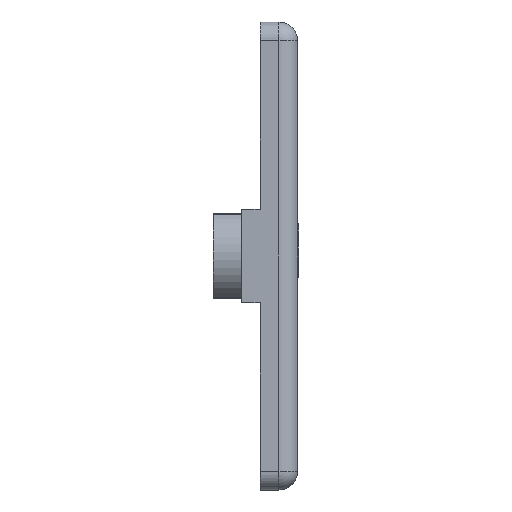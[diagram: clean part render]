
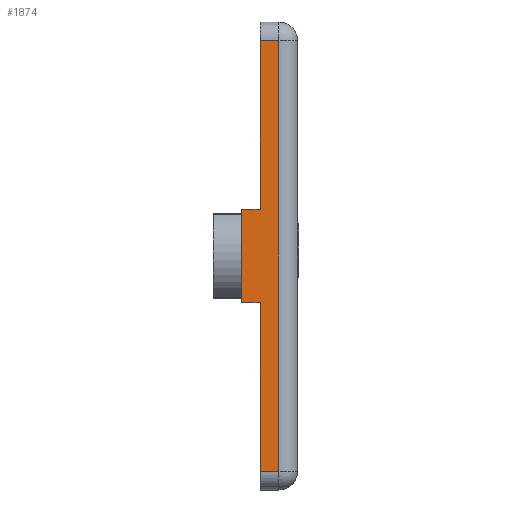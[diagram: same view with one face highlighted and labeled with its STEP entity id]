
A CAD part, left-side view. The second image highlights one B-rep face of the part: STEP entity #1874.
In plain terms, the highlighted planar face has unit normal (-1, 0, 0).
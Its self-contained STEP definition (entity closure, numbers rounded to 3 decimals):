
#263 = EDGE_CURVE ( 'NONE', #3772, #6818, #517, .T. ) ;
#286 = CARTESIAN_POINT ( 'NONE',  ( -50., 6., -5. ) ) ;
#391 = EDGE_CURVE ( 'NONE', #6206, #7126, #5314, .T. ) ;
#461 = EDGE_CURVE ( 'NONE', #3600, #4583, #7524, .T. ) ;
#496 = LINE ( 'NONE', #3031, #7209 ) ;
#517 = LINE ( 'NONE', #1816, #3979 ) ;
#574 = CARTESIAN_POINT ( 'NONE',  ( -50., 4., -23. ) ) ;
#644 = DIRECTION ( 'NONE',  ( 0., 0., 1. ) ) ;
#651 = EDGE_CURVE ( 'NONE', #3600, #3772, #2903, .T. ) ;
#682 = LINE ( 'NONE', #574, #3939 ) ;
#812 = ORIENTED_EDGE ( 'NONE', *, *, #4389, .T. ) ;
#814 = VECTOR ( 'NONE', #3661, 1000. ) ;
#822 = CARTESIAN_POINT ( 'NONE',  ( -50., 4., 5. ) ) ;
#849 = PLANE ( 'NONE',  #4852 ) ;
#1229 = ORIENTED_EDGE ( 'NONE', *, *, #391, .T. ) ;
#1240 = DIRECTION ( 'NONE',  ( 0., 0., 1. ) ) ;
#1378 = FACE_OUTER_BOUND ( 'NONE', #3823, .T. ) ;
#1514 = VECTOR ( 'NONE', #6084, 1000. ) ;
#1603 = EDGE_CURVE ( 'NONE', #3436, #4583, #4949, .T. ) ;
#1786 = DIRECTION ( 'NONE',  ( 0., -1., 0. ) ) ;
#1816 = CARTESIAN_POINT ( 'NONE',  ( -50., 6., 5. ) ) ;
#1874 = ADVANCED_FACE ( 'NONE', ( #1378 ), #849, .F. ) ;
#2161 = DIRECTION ( 'NONE',  ( 0., 0., -1. ) ) ;
#2186 = CARTESIAN_POINT ( 'NONE',  ( -50., 2., -23. ) ) ;
#2301 = ORIENTED_EDGE ( 'NONE', *, *, #651, .F. ) ;
#2403 = ORIENTED_EDGE ( 'NONE', *, *, #4296, .F. ) ;
#2715 = CARTESIAN_POINT ( 'NONE',  ( -50., 4., -23. ) ) ;
#2903 = LINE ( 'NONE', #4482, #4440 ) ;
#3031 = CARTESIAN_POINT ( 'NONE',  ( -50., 4., -23. ) ) ;
#3436 = VERTEX_POINT ( 'NONE', #2715 ) ;
#3600 = VERTEX_POINT ( 'NONE', #6264 ) ;
#3661 = DIRECTION ( 'NONE',  ( 0., -1., 0. ) ) ;
#3730 = CARTESIAN_POINT ( 'NONE',  ( -50., 4., -23. ) ) ;
#3772 = VERTEX_POINT ( 'NONE', #6213 ) ;
#3784 = CARTESIAN_POINT ( 'NONE',  ( -50., 2., 23. ) ) ;
#3823 = EDGE_LOOP ( 'NONE', ( #812, #1229, #2403, #4102, #5492, #2301, #6024, #8290 ) ) ;
#3939 = VECTOR ( 'NONE', #1240, 1000. ) ;
#3979 = VECTOR ( 'NONE', #1786, 1000. ) ;
#4102 = ORIENTED_EDGE ( 'NONE', *, *, #5887, .F. ) ;
#4296 = EDGE_CURVE ( 'NONE', #4375, #7126, #4986, .T. ) ;
#4375 = VERTEX_POINT ( 'NONE', #8100 ) ;
#4389 = EDGE_CURVE ( 'NONE', #3436, #6206, #496, .T. ) ;
#4440 = VECTOR ( 'NONE', #644, 1000. ) ;
#4482 = CARTESIAN_POINT ( 'NONE',  ( -50., 6., -5. ) ) ;
#4583 = VERTEX_POINT ( 'NONE', #5841 ) ;
#4736 = VECTOR ( 'NONE', #6939, 1000. ) ;
#4852 = AXIS2_PLACEMENT_3D ( 'NONE', #5408, #6055, #2161 ) ;
#4889 = DIRECTION ( 'NONE',  ( 0., 0., 1. ) ) ;
#4949 = LINE ( 'NONE', #3730, #4736 ) ;
#4986 = LINE ( 'NONE', #7386, #1514 ) ;
#5314 = LINE ( 'NONE', #6157, #8350 ) ;
#5408 = CARTESIAN_POINT ( 'NONE',  ( -50., 4., -23. ) ) ;
#5492 = ORIENTED_EDGE ( 'NONE', *, *, #263, .F. ) ;
#5671 = DIRECTION ( 'NONE',  ( 0., -1., 0. ) ) ;
#5841 = CARTESIAN_POINT ( 'NONE',  ( -50., 4., -5. ) ) ;
#5887 = EDGE_CURVE ( 'NONE', #6818, #4375, #682, .T. ) ;
#6024 = ORIENTED_EDGE ( 'NONE', *, *, #461, .T. ) ;
#6055 = DIRECTION ( 'NONE',  ( 1., 0., 0. ) ) ;
#6084 = DIRECTION ( 'NONE',  ( 0., -1., 0. ) ) ;
#6157 = CARTESIAN_POINT ( 'NONE',  ( -50., 2., -23. ) ) ;
#6206 = VERTEX_POINT ( 'NONE', #2186 ) ;
#6213 = CARTESIAN_POINT ( 'NONE',  ( -50., 6., 5. ) ) ;
#6264 = CARTESIAN_POINT ( 'NONE',  ( -50., 6., -5. ) ) ;
#6818 = VERTEX_POINT ( 'NONE', #822 ) ;
#6939 = DIRECTION ( 'NONE',  ( 0., 0., 1. ) ) ;
#7126 = VERTEX_POINT ( 'NONE', #3784 ) ;
#7209 = VECTOR ( 'NONE', #5671, 1000. ) ;
#7386 = CARTESIAN_POINT ( 'NONE',  ( -50., 4., 23. ) ) ;
#7524 = LINE ( 'NONE', #286, #814 ) ;
#8100 = CARTESIAN_POINT ( 'NONE',  ( -50., 4., 23. ) ) ;
#8290 = ORIENTED_EDGE ( 'NONE', *, *, #1603, .F. ) ;
#8350 = VECTOR ( 'NONE', #4889, 1000. ) ;
